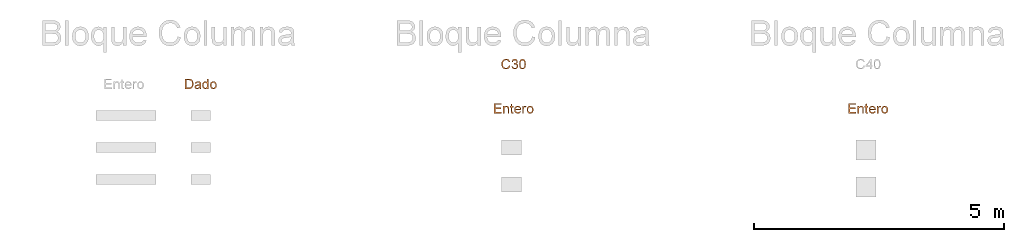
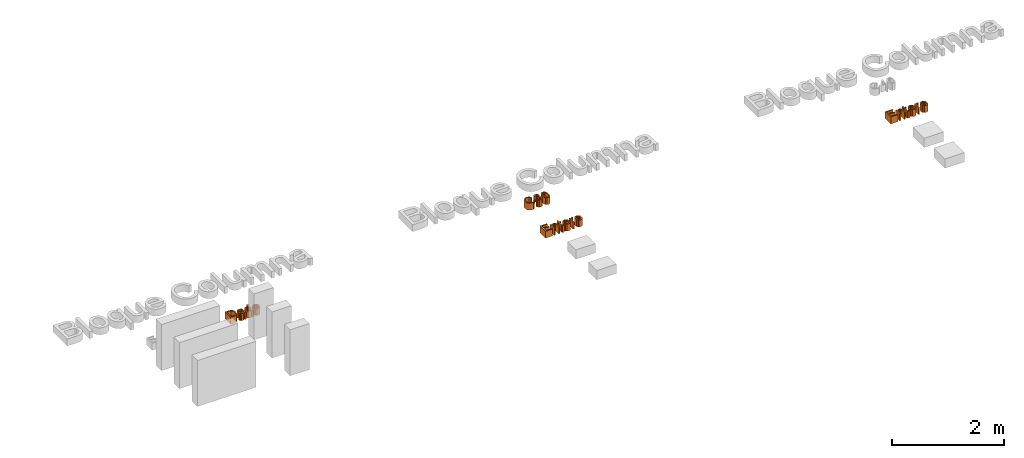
# One storey, part 7 of 8: 4 proxies.
"""IFC2X3 building model written with IfcOpenShell, lengths in metres."""

from ifc_helpers import new_model, entity, si_unit, converted_unit, derived_unit, direction, frame, origin, place, context, subcontext, project, spatial, polyline, outline, extrude, type_object, element, save


model = new_model("IFC2X3")

# Units and contexts
model_context = context("Model", 3, precision=1e-05, world=origin(), true_north=direction((6.12303176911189e-17, 1.0)))
body_context = subcontext(model_context, "Body", "Model", "MODEL_VIEW")
ifc_project = project(units=[si_unit("LENGTHUNIT", "METRE"), si_unit("AREAUNIT", "SQUARE_METRE"), si_unit("VOLUMEUNIT", "CUBIC_METRE"), converted_unit("PLANEANGLEUNIT", "DEGREE", entity("IfcRatioMeasure", 0.0174532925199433), si_unit("PLANEANGLEUNIT", "RADIAN"), dimensions=[0, 0, 0, 0, 0, 0, 0]), si_unit("MASSUNIT", "GRAM", prefix="KILO"), derived_unit("MASSDENSITYUNIT", [(si_unit("MASSUNIT", "GRAM", prefix="KILO"), 1), (si_unit("LENGTHUNIT", "METRE"), -3)]), derived_unit("MOMENTOFINERTIAUNIT", [(si_unit("LENGTHUNIT", "METRE"), 4)]), si_unit("TIMEUNIT", "SECOND"), si_unit("FREQUENCYUNIT", "HERTZ"), si_unit("THERMODYNAMICTEMPERATUREUNIT", "DEGREE_CELSIUS"), derived_unit("THERMALTRANSMITTANCEUNIT", [(si_unit("MASSUNIT", "GRAM", prefix="KILO"), 1), (si_unit("THERMODYNAMICTEMPERATUREUNIT", "KELVIN"), -1), (si_unit("TIMEUNIT", "SECOND"), -3)]), derived_unit("VOLUMETRICFLOWRATEUNIT", [(si_unit("LENGTHUNIT", "METRE"), 3), (si_unit("TIMEUNIT", "SECOND"), -1)]), si_unit("ELECTRICCURRENTUNIT", "AMPERE"), si_unit("ELECTRICVOLTAGEUNIT", "VOLT"), si_unit("POWERUNIT", "WATT"), si_unit("FORCEUNIT", "NEWTON", prefix="KILO"), si_unit("ILLUMINANCEUNIT", "LUX"), si_unit("LUMINOUSFLUXUNIT", "LUMEN"), si_unit("LUMINOUSINTENSITYUNIT", "CANDELA"), derived_unit("USERDEFINED", [(si_unit("MASSUNIT", "GRAM", prefix="KILO"), -1), (si_unit("LENGTHUNIT", "METRE"), -2), (si_unit("TIMEUNIT", "SECOND"), 3), (si_unit("LUMINOUSFLUXUNIT", "LUMEN"), 1)]), derived_unit("LINEARVELOCITYUNIT", [(si_unit("LENGTHUNIT", "METRE"), 1), (si_unit("TIMEUNIT", "SECOND"), -1)]), si_unit("PRESSUREUNIT", "PASCAL"), derived_unit("USERDEFINED", [(si_unit("LENGTHUNIT", "METRE"), -2), (si_unit("MASSUNIT", "GRAM", prefix="KILO"), 1), (si_unit("TIMEUNIT", "SECOND"), -2)]), derived_unit("LINEARFORCEUNIT", [(si_unit("MASSUNIT", "GRAM", prefix="KILO"), 1), (si_unit("LENGTHUNIT", "METRE"), 1), (si_unit("TIMEUNIT", "SECOND"), -2), (si_unit("LENGTHUNIT", "METRE"), -1)]), derived_unit("PLANARFORCEUNIT", [(si_unit("MASSUNIT", "GRAM", prefix="KILO"), 1), (si_unit("LENGTHUNIT", "METRE"), 1), (si_unit("TIMEUNIT", "SECOND"), -2), (si_unit("LENGTHUNIT", "METRE"), -2)])], contexts=[model_context])

# Site, building, storey
site_placement = place(None, origin())
site = spatial("IfcSite", under=ifc_project, at=site_placement, Name="Default", CompositionType="ELEMENT")
building_placement = place(site_placement, origin())
building = spatial("IfcBuilding", under=site, at=building_placement, CompositionType="ELEMENT")
storey_placement = place(building_placement, origin())
storey = spatial("IfcBuildingStorey", under=building, at=storey_placement, Name="Nivel 1", CompositionType="ELEMENT", Elevation=0.0)

# Proxies
building_element_proxy_type_1 = type_object("IfcBuildingElementProxyType", Name="Texto de modelo:Subtítulo", PredefinedType="NOTDEFINED")
proxy_1_placement = place(storey_placement, origin())
element("IfcBuildingElementProxy", 1, at=proxy_1_placement, inside=storey, type_object=building_element_proxy_type_1, Name="Texto de modelo:Subtítulo", ObjectType="Texto de modelo:Subtítulo", context=body_context, shape_type="SweptSolid", body=[
    extrude(outline(polyline([(-0.0800511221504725, -0.101502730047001), (0.0674940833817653, -0.101502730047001), (0.0674940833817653, -0.0763886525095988), (-0.054937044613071, -0.0763886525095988), (-0.054937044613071, -0.0104641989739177), (0.0580763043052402, -0.0104641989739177), (0.0580763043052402, 0.0146498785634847), (-0.054937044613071, 0.0146498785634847), (-0.054937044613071, 0.0742958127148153), (0.0643548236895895, 0.0742958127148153), (0.0643548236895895, 0.0994098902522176), (-0.0800511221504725, 0.0994098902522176), (-0.0800511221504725, -0.101502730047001)])), frame((13.7233392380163, -0.528869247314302, 0.0)), (0.0, 0.0, 1.0), 0.15),
    extrude(outline(polyline([(-0.0610913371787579, -0.102201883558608), (-0.0359772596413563, -0.102201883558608), (-0.0359772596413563, -0.0239165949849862), (-0.0331139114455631, -0.000776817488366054), (-0.0245238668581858, 0.013509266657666), (-0.0119852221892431, 0.0209036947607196), (0.00272392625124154, 0.0233685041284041), (0.0199653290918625, 0.0189784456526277), (0.030192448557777, 0.00723074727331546), (0.0330864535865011, -0.0149893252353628), (0.0330864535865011, -0.102201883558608), (0.0582005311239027, -0.102201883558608), (0.0582005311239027, -0.0116048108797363), (0.0568761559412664, 0.012675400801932), (0.0493468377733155, 0.0311430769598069), (0.0331600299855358, 0.0437001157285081), (0.00944390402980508, 0.0484825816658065), (-0.00454174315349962, 0.0469987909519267), (-0.0167738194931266, 0.0425474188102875), (-0.0272523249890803, 0.0351284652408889), (-0.0359772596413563, 0.0247419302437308), (-0.0359772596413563, 0.0453433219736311), (-0.0610913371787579, 0.0453433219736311), (-0.0610913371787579, -0.102201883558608)])), frame((13.8864565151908, -0.528170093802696, 0.0)), (0.0, 0.0, 1.0), 0.15),
    extrude(outline(polyline([(-0.0351329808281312, -0.0583737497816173), (-0.0402910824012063, -0.079664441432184), (-0.0218126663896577, -0.0838186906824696), (-0.000471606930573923, -0.0816406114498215), (0.0110045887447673, -0.0717345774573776), (0.0167042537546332, -0.0436466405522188), (0.0243888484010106, 0.0379564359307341), (0.0431414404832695, 0.0361904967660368), (0.0454960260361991, 0.0611939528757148), (0.0267434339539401, 0.062959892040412), (0.030105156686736, 0.0986581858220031), (0.00648593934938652, 0.115712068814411), (0.00173997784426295, 0.0653144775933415), (-0.0232634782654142, 0.067669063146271), (-0.0256180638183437, 0.042665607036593), (-0.000614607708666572, 0.0403110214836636), (-0.00823022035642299, -0.0405595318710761), (-0.0107628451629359, -0.0533277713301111), (-0.015465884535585, -0.0574914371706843), (-0.0241462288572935, -0.0583737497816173), (-0.0351329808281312, -0.0583737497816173)])), frame((14.0030509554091, -0.54801668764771, 0.0), z_axis=(0.0, 0.0, -1.0), x_axis=(-0.995595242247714, 0.0937556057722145, 0.0)), (0.0, 0.0, -1.0), 0.15),
    extrude(outline(polyline([(-0.00993794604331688, -0.0410894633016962), (-0.0216263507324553, -0.0629882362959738), (-0.00136076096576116, -0.0664886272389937), (0.0181427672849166, -0.0629678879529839), (0.0362596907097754, -0.0523738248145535), (0.0523654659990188, -0.0346542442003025), (0.065361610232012, -0.00774419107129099), (0.0663157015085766, 0.0193800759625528), (0.0551946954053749, 0.0449978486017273), (0.0319655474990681, 0.0673884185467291), (0.00225549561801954, 0.0824990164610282), (-0.0263080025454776, 0.0848576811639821), (-0.0517924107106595, 0.0755140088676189), (-0.0722651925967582, 0.0555175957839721), (-0.0838796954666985, 0.0303111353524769), (-0.083981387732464, 0.00365713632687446), (-0.0721795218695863, -0.0222407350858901), (-0.0480833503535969, -0.0451788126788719), (-0.042477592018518, -0.0489757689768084), (0.0228336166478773, 0.0430743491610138), (0.0356497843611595, 0.0286508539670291), (0.0410775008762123, 0.0124178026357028), (0.0395747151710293, -0.00438600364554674), (0.0315993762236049, -0.0205217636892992), (0.0130702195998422, -0.0375669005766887), (0.00222602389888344, -0.0410894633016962), (-0.00993794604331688, -0.0410894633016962)]), holes=[polyline([(0.0023513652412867, 0.057606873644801), (-0.0485124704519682, -0.0140810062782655), (-0.0573680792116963, -0.00363287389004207), (-0.0612558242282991, 0.00728999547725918), (-0.0599840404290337, 0.0243403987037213), (-0.0517261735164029, 0.0410650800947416), (-0.0400149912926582, 0.0535127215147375), (-0.0261693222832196, 0.0608523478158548), (-0.0115826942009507, 0.06243378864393), (0.0023513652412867, 0.057606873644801)])]), frame((14.1217096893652, -0.570750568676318, 0.0), z_axis=(0.0, 0.0, -1.0), x_axis=(-0.578660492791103, -0.815568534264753, 0.0)), (0.0, 0.0, -1.0), 0.15),
    extrude(outline(polyline([(-0.0370877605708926, -0.11143145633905), (-0.011973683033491, -0.11143145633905), (-0.011973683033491, -0.0338819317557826), (-0.00790245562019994, -0.00454947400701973), (0.00114744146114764, 0.00918478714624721), (0.0153476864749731, 0.0141389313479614), (0.0330060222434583, 0.00898858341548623), (0.0413937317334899, 0.031502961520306), (0.0286895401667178, 0.0373154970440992), (0.016181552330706, 0.0392530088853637), (0.000485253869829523, 0.0343969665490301), (-0.0151129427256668, 0.0142860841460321), (-0.0151129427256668, 0.0361137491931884), (-0.0370877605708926, 0.0361137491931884), (-0.0370877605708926, -0.11143145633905)])), frame((14.2485818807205, -0.518940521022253, 0.0)), (0.0, 0.0, 1.0), 0.15),
    extrude(outline(polyline([(-0.0116534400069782, -0.0669843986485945), (0.0215735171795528, -0.0669843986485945), (0.0474010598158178, -0.0567621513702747), (0.0650090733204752, -0.0379496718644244), (0.0735774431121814, -0.0121789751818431), (0.0737787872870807, 0.0056879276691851), (0.0693254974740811, 0.0227506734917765), (0.0604863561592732, 0.0378207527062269), (0.0475301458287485, 0.0497096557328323), (0.0292360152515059, 0.058406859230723), (0.00438311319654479, 0.0639018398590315), (-0.0272289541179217, 0.063628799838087), (-0.0525847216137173, 0.0531926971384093), (-0.0702507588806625, 0.0343634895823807), (-0.0787936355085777, 0.00891113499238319), (-0.0780541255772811, -0.0155295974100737), (-0.0686800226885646, -0.0371544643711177), (-0.0589084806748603, -0.0481042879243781), (-0.0461468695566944, -0.0567258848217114), (-0.0116534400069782, -0.0669843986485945)]), holes=[polyline([(-0.00825874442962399, -0.0421007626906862), (-0.030362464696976, -0.0361073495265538), (-0.045170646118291, -0.0252557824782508), (-0.0529373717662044, -0.0109345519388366), (-0.0539167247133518, 0.00546785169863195), (-0.0485294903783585, 0.0208219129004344), (-0.0371292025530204, 0.0324839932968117), (-0.0201048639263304, 0.0389852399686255), (0.00215452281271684, 0.0388567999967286), (0.024762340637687, 0.0327936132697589), (0.0398195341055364, 0.0219075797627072), (0.0476807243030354, 0.00759803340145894), (0.0487005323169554, -0.0087356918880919), (0.043290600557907, -0.0242537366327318), (0.0318894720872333, -0.0359218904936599), (0.0146540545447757, -0.0423382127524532), (-0.00825874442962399, -0.0421007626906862)])]), frame((14.3673429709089, -0.558958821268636, 0.0), z_axis=(0.0, 0.0, 1.0), x_axis=(0.137105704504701, -0.990556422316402, 0.0)), (0.0, 0.0, 1.0), 0.15),
])
building_element_proxy_type_2 = type_object("IfcBuildingElementProxyType", Name="Texto de modelo:Subtítulo", PredefinedType="NOTDEFINED")
proxy_2_placement = place(storey_placement, origin())
element("IfcBuildingElementProxy", 2, at=proxy_2_placement, inside=storey, type_object=building_element_proxy_type_2, Name="Texto de modelo:Subtítulo", ObjectType="Texto de modelo:Subtítulo", context=body_context, shape_type="SweptSolid", body=[
    extrude(outline(polyline([(-0.112205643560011, -0.108781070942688), (-0.0395612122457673, -0.108781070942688), (-0.007261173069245, -0.105347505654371), (0.0167492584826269, -0.0952675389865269), (0.0350943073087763, -0.0770451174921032), (0.0488285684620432, -0.0477862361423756), (0.0541751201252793, -0.00724564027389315), (0.0522008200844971, 0.0181382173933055), (0.0462779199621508, 0.0405299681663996), (0.0363818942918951, 0.0595617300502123), (0.0224882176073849, 0.0748656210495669), (0.00897468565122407, 0.0836580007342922), (-0.00704044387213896, 0.0892375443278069), (-0.0428966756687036, 0.092131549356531), (-0.112205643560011, 0.092131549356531), (-0.112205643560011, -0.108781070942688)]), holes=[polyline([(-0.0870915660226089, -0.0836669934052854), (-0.0870915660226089, 0.0670174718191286), (-0.0433381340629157, 0.0670174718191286), (-0.00772715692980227, 0.062995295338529), (0.0064669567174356, 0.0546075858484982), (0.0183434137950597, 0.0407261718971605), (0.0263816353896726, 0.0205171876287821), (0.029061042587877, -0.00685323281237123), (0.0276937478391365, -0.0275098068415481), (0.0235918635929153, -0.0448431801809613), (0.0170374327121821, -0.0589146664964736), (0.00831249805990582, -0.0697855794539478), (-0.010326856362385, -0.0800372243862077), (-0.0426514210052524, -0.0836669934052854), (-0.0870915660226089, -0.0836669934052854)])]), frame((0.46997993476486, -0.0314649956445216, 0.0)), (0.0, 0.0, 1.0), 0.15),
    extrude(outline(polyline([(0.0711345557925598, 0.0146039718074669), (0.0909889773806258, 0.0146039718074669), (0.0989307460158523, 0.0384292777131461), (0.077315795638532, 0.0403604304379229), (0.0355206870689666, 0.0529478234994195), (0.00587865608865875, 0.0628285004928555), (-0.0153562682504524, 0.0686142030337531), (-0.0339620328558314, 0.0666985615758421), (-0.0500317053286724, 0.0539327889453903), (-0.0638910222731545, 0.02647009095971), (-0.069575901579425, -0.0065611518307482), (-0.0677610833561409, -0.0204670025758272), (-0.0628595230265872, -0.0318600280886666), (-0.0430283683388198, -0.0499228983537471), (-0.0321084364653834, -0.0270903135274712), (-0.0404360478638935, -0.0190535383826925), (-0.0445407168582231, -0.0101752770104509), (-0.0446745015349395, 0.000882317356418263), (-0.04108945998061, 0.0154570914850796), (-0.0342567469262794, 0.0302160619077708), (-0.0254230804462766, 0.0394995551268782), (-0.0168259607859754, 0.0421015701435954), (-0.00564621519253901, 0.0401975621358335), (-0.000387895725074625, 0.0382896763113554), (-0.00597195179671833, -0.00576232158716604), (-0.00926034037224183, -0.0275711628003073), (-0.00700345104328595, -0.0468594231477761), (0.002683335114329, -0.0634021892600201), (0.0200094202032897, -0.0742445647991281), (0.0370349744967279, -0.076565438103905), (0.0529320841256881, -0.0718015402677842), (0.066308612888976, -0.0599412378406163), (0.075772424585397, -0.040972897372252), (0.0795804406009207, -0.0138824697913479), (0.0711345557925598, 0.0146039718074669)]), holes=[polyline([(0.0234839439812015, 0.0304875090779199), (0.0301848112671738, 0.0280987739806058), (0.0473557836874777, 0.0181870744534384), (0.055972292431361, -0.00195430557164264), (0.0564783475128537, -0.0146871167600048), (0.0536378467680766, -0.0279589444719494), (0.0483232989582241, -0.0395982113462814), (0.041531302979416, -0.04706106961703), (0.0339521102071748, -0.0504483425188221), (0.0262759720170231, -0.0498608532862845), (0.0181946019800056, -0.0435477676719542), (0.0150070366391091, -0.0321702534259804), (0.0179774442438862, -0.0103846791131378), (0.0234839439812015, 0.0304875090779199)])]), frame((0.613376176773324, -0.0585445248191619, 0.0), z_axis=(0.0, 0.0, 1.0), x_axis=(0.316227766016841, -0.948683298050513, 0.0)), (0.0, 0.0, 1.0), 0.15),
    extrude(outline(polyline([(0.0429290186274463, -0.0757009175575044), (0.0680430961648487, -0.0757009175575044), (0.0680430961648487, 0.125211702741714), (0.0429290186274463, 0.125211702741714), (0.0429290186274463, 0.0503599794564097), (0.0263988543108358, 0.0681409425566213), (0.0155340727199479, 0.0732728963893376), (0.003246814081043, 0.0749835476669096), (-0.0136205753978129, 0.0725923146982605), (-0.0288079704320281, 0.0654186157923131), (-0.0413650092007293, 0.0537567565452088), (-0.0503413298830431, 0.037901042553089), (-0.055730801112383, 0.0189305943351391), (-0.0575272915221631, -0.00207546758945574), (-0.055577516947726, -0.0233451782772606), (-0.0497281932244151, -0.0420274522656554), (-0.0403349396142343, -0.0574968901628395), (-0.027753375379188, -0.0691280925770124), (-0.0128909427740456, -0.0764121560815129), (0.0033449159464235, -0.0788401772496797), (0.0156229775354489, -0.0771632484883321), (0.0263130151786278, -0.0721324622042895), (0.0354150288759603, -0.0637478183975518), (0.0429290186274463, -0.052009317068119), (0.0429290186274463, -0.0757009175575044)]), holes=[polyline([(-0.0324132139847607, -0.00197736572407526), (-0.0297644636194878, 0.0213034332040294), (-0.0218182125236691, 0.0373860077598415), (-0.00991109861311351, 0.0467486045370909), (0.00462024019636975, 0.0498694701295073), (0.0195255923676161, 0.046619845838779), (0.0318680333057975, 0.036870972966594), (0.0401637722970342, 0.0201813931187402), (0.0429290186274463, -0.00389035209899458), (0.0402128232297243, -0.0259080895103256), (0.0320642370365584, -0.0414388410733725), (0.020028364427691, -0.0506542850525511), (0.00565030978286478, -0.0537260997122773), (-0.00873387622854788, -0.0505071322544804), (-0.0210824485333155, -0.0408502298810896), (-0.0295805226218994, -0.0246940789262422), (-0.0324132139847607, -0.00197736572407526)])]), frame((0.757480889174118, -0.0645451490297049, 0.0)), (0.0, 0.0, 1.0), 0.15),
    extrude(outline(polyline([(-0.0116534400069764, -0.0669843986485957), (0.0215735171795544, -0.0669843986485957), (0.0474010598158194, -0.0567621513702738), (0.065009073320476, -0.0379496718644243), (0.0735774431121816, -0.0121789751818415), (0.0737787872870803, 0.00568792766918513), (0.0693254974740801, 0.0227506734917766), (0.060486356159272, 0.0378207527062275), (0.0475301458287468, 0.0497096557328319), (0.029236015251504, 0.0584068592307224), (0.00438311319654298, 0.0639018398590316), (-0.0272289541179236, 0.0636287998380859), (-0.052584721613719, 0.0531926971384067), (-0.0702507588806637, 0.0343634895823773), (-0.0787936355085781, 0.0089111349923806), (-0.0780541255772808, -0.015529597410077), (-0.0686800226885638, -0.037154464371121), (-0.0589084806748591, -0.0481042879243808), (-0.0461468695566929, -0.0567258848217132), (-0.0116534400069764, -0.0669843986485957)]), holes=[polyline([(-0.00825874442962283, -0.0421007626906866), (-0.0303624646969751, -0.036107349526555), (-0.0451706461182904, -0.0252557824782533), (-0.0529373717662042, -0.010934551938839), (-0.053916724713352, 0.00546785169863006), (-0.0485294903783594, 0.020821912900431), (-0.0371292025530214, 0.03248399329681), (-0.0201048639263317, 0.0389852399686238), (0.00215452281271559, 0.0388567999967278), (0.0247623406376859, 0.0327936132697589), (0.0398195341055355, 0.0219075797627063), (0.0476807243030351, 0.00759803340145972), (0.0487005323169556, -0.00873569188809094), (0.0432906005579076, -0.0242537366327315), (0.0318894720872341, -0.0359218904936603), (0.0146540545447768, -0.0423382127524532), (-0.00825874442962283, -0.0421007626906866)])]), frame((0.924866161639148, -0.0688329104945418, 0.0), z_axis=(0.0, 0.0, 1.0), x_axis=(0.137105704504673, -0.990556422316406, 0.0)), (0.0, 0.0, 1.0), 0.15),
])
building_element_proxy_type_3 = type_object("IfcBuildingElementProxyType", Name="Texto de modelo:Subtítulo", PredefinedType="NOTDEFINED")
proxy_3_placement = place(storey_placement, origin())
element("IfcBuildingElementProxy", 3, at=proxy_3_placement, inside=storey, type_object=building_element_proxy_type_3, Name="Texto de modelo:Subtítulo", ObjectType="Texto de modelo:Subtítulo", context=body_context, shape_type="SweptSolid", body=[
    extrude(outline(polyline([(0.0035523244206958, -0.0754517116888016), (0.000735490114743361, -0.101233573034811), (0.0322073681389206, -0.10073341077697), (0.0586340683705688, -0.0912753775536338), (0.0793092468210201, -0.0735495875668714), (0.0935265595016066, -0.0482461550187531), (0.100733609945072, -0.0198295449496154), (0.0996500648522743, 0.00530853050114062), (0.0908072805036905, 0.0276031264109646), (0.074736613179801, 0.0474892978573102), (0.0532622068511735, 0.064035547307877), (0.0282082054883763, 0.0763103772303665), (-0.000248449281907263, 0.0838799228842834), (-0.0270668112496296, 0.0844731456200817), (-0.0513308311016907, 0.0782421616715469), (-0.0721244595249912, 0.0653390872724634), (-0.0887450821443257, 0.0469994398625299), (-0.100490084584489, 0.0244587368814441), (-0.106560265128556, -0.00268319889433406), (-0.103625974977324, -0.0281270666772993), (-0.0921127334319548, -0.0509518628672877), (-0.0724460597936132, -0.0702365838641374), (-0.0579739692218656, -0.0488570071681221), (-0.0720305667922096, -0.0342408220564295), (-0.0795803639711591, -0.0186741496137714), (-0.080995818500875, -0.00185900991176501), (-0.0766493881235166, 0.0165025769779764), (-0.0665154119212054, 0.0357323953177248), (-0.052717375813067, 0.0494622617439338), (-0.036196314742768, 0.0575953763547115), (-0.0178932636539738, 0.0600349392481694), (0.000999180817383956, 0.0580310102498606), (0.0192884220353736, 0.0528336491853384), (0.0403234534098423, 0.042863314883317), (0.0570828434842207, 0.0304574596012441), (0.0687737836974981, 0.0156861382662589), (0.0746034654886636, -0.0013805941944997), (0.0751312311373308, -0.0194006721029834), (0.070916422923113, -0.0370320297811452), (0.0605954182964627, -0.0555423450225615), (0.0456816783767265, -0.0685820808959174), (0.0265442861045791, -0.0754517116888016), (0.0035523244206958, -0.0754517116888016)])), frame((6.77382426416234, 0.358696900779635, 0.0), z_axis=(0.0, 0.0, -1.0), x_axis=(-0.353343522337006, -0.935493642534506, 0.0)), (0.0, 0.0, -1.0), 0.15),
    extrude(outline(polyline([(0.0308511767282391, -0.0857990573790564), (0.0543855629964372, -0.0857990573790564), (0.0754383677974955, -0.0773126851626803), (0.0920499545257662, -0.0613670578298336), (0.102260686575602, -0.0389892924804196), (0.104904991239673, -0.0118817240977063), (0.097314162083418, 0.0127655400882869), (0.0813962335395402, 0.0320777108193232), (0.0590592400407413, 0.0431799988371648), (0.0410857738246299, 0.0456110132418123), (0.0250120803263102, 0.0425376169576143), (0.0115030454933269, 0.0341591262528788), (0.00122355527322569, 0.0206748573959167), (-0.00260449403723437, 0.0341326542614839), (-0.0093716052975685, 0.0449371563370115), (-0.0186123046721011, 0.0528845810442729), (-0.0298611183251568, 0.0577711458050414), (-0.0429117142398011, 0.0594449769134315), (-0.0562331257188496, 0.0573913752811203), (-0.0689026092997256, 0.0515673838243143), (-0.0799974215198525, 0.0419300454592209), (-0.0888132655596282, 0.0293099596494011), (-0.0946458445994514, 0.0145377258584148), (-0.0970673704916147, -0.00753238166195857), (-0.0917108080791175, -0.0276643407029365), (-0.0789482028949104, -0.0448026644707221), (-0.0591516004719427, -0.0578918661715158), (-0.0494893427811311, -0.034499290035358), (-0.0615597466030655, -0.0265778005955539), (-0.0689448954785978, -0.0164050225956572), (-0.0717776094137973, -0.00446586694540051), (-0.0701907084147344, 0.00875475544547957), (-0.0648433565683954, 0.0209199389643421), (-0.0564465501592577, 0.0295035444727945), (-0.0461432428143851, 0.033814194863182), (-0.0350763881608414, 0.033160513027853), (-0.0233518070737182, 0.0266687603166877), (-0.0170361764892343, 0.0150979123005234), (-0.0153741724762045, 0.000694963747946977), (-0.0176104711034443, -0.0142930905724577), (-0.018956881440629, -0.0180946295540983), (0.0045264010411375, -0.0274257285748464), (0.00652907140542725, -0.00971636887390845), (0.0131793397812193, 0.00483825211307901), (0.0239817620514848, 0.0151023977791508), (0.0374253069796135, 0.0201549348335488), (0.0519989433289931, 0.0190747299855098), (0.0658215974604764, 0.0123515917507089), (0.0755929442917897, 0.000864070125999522), (0.0801355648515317, -0.0141626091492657), (0.0782720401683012, -0.031503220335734), (0.0724444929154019, -0.0451198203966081), (0.0636178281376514, -0.05436762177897), (0.0511647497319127, -0.0594943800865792), (0.0344579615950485, -0.060747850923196), (0.0308511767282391, -0.0857990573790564)])), frame((6.9679827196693, 0.363083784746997, 0.0), z_axis=(0.0, 0.0, 1.0), x_axis=(0.264175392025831, -0.964474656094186, 0.0)), (0.0, 0.0, 1.0), 0.15),
    extrude(outline(polyline([(-0.00189888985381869, -0.0664927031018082), (0.0472235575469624, -0.0664927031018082), (0.0666133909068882, -0.0621912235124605), (0.0825556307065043, -0.0550220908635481), (0.098846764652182, -0.0367698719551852), (0.106262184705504, -0.0112975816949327), (0.105591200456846, 0.00917819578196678), (0.0990519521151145, 0.0263964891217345), (0.0865641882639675, 0.0404764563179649), (0.0680476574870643, 0.0515372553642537), (0.04315281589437, 0.0595961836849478), (0.0115301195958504, 0.0646705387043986), (-0.0359005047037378, 0.0649410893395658), (-0.0666698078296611, 0.0562576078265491), (-0.0782574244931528, 0.0487289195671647), (-0.0872999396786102, 0.0380058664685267), (-0.0935420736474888, 0.0247156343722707), (-0.0967285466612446, 0.00948540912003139), (-0.0960646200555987, -0.010878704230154), (-0.0895765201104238, -0.0280547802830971), (-0.077145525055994, -0.0421474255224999), (-0.0586529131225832, -0.0532612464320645), (-0.0337026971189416, -0.0613813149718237), (-0.00189888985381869, -0.0664927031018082)]), holes=[polyline([(0.000610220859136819, -0.0415042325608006), (-0.0378727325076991, -0.0345071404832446), (-0.0612926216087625, -0.0229381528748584), (-0.0700337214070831, -0.00934656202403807), (-0.0717750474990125, 0.00663472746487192), (-0.0662900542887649, 0.0227636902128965), (-0.0535720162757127, 0.0346512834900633), (-0.0297808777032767, 0.0407949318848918), (0.00892341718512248, 0.0396920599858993), (0.0478616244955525, 0.0327469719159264), (0.069719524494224, 0.0216337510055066), (0.0792681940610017, 0.00744175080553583), (0.0812787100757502, -0.00873967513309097), (0.0760430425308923, -0.0241792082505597), (0.0638531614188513, -0.0361455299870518), (0.0402089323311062, -0.0426000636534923), (0.000610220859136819, -0.0415042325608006)])]), frame((7.11354587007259, 0.361016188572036, 0.0), z_axis=(0.0, 0.0, 1.0), x_axis=(0.101851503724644, -0.994799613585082, 0.0)), (0.0, 0.0, 1.0), 0.15),
])
building_element_proxy_type_4 = type_object("IfcBuildingElementProxyType", Name="Texto de modelo:Subtítulo", PredefinedType="NOTDEFINED")
proxy_4_placement = place(storey_placement, origin())
element("IfcBuildingElementProxy", 4, at=proxy_4_placement, inside=storey, type_object=building_element_proxy_type_4, Name="Texto de modelo:Subtítulo", ObjectType="Texto de modelo:Subtítulo", context=body_context, shape_type="SweptSolid", body=[
    extrude(outline(polyline([(-0.0800511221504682, -0.101502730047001), (0.0674940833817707, -0.101502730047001), (0.0674940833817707, -0.0763886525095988), (-0.0549370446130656, -0.0763886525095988), (-0.0549370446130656, -0.0104641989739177), (0.0580763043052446, -0.0104641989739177), (0.0580763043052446, 0.0146498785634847), (-0.0549370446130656, 0.0146498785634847), (-0.0549370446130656, 0.0742958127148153), (0.064354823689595, 0.0742958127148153), (0.064354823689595, 0.0994098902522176), (-0.0800511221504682, 0.0994098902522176), (-0.0800511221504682, -0.101502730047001)])), frame((6.62333923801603, -0.52886924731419, 0.0)), (0.0, 0.0, 1.0), 0.15),
    extrude(outline(polyline([(-0.0610913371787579, -0.102201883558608), (-0.0359772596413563, -0.102201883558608), (-0.0359772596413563, -0.0239165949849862), (-0.0331139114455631, -0.000776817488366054), (-0.0245238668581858, 0.013509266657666), (-0.0119852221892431, 0.0209036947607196), (0.00272392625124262, 0.0233685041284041), (0.0199653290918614, 0.0189784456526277), (0.030192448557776, 0.00723074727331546), (0.0330864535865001, -0.0149893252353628), (0.0330864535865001, -0.102201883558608), (0.0582005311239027, -0.102201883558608), (0.0582005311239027, -0.0116048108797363), (0.0568761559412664, 0.012675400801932), (0.0493468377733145, 0.0311430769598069), (0.0331600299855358, 0.0437001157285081), (0.00944390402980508, 0.0484825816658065), (-0.00454174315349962, 0.0469987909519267), (-0.0167738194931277, 0.0425474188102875), (-0.0272523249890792, 0.0351284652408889), (-0.0359772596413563, 0.0247419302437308), (-0.0359772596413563, 0.0453433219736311), (-0.0610913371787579, 0.0453433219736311), (-0.0610913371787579, -0.102201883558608)])), frame((6.78645651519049, -0.528170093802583, 0.0)), (0.0, 0.0, 1.0), 0.15),
    extrude(outline(polyline([(-0.035132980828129, -0.0583737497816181), (-0.0402910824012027, -0.079664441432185), (-0.021812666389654, -0.0838186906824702), (-0.000471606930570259, -0.0816406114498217), (0.0110045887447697, -0.0717345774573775), (0.0167042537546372, -0.0436466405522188), (0.0243888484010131, 0.0379564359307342), (0.043141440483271, 0.0361904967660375), (0.0454960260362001, 0.0611939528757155), (0.0267434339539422, 0.0629598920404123), (0.0301051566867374, 0.0986581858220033), (0.00648593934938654, 0.115712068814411), (0.0017399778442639, 0.0653144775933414), (-0.0232634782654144, 0.0676690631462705), (-0.0256180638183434, 0.0426656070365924), (-0.000614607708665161, 0.0403110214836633), (-0.00823022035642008, -0.0405595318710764), (-0.0107628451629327, -0.0533277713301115), (-0.0154658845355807, -0.0574914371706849), (-0.0241462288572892, -0.0583737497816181), (-0.035132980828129, -0.0583737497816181)])), frame((6.90305095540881, -0.548016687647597, 0.0), z_axis=(0.0, 0.0, -1.0), x_axis=(-0.995595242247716, 0.0937556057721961, 0.0)), (0.0, 0.0, -1.0), 0.15),
    extrude(outline(polyline([(-0.00993794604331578, -0.0410894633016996), (-0.0216263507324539, -0.0629882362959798), (-0.00136076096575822, -0.0664886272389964), (0.0181427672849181, -0.0629678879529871), (0.0362596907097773, -0.0523738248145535), (0.0523654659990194, -0.0346542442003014), (0.0653616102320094, -0.00774419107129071), (0.0663157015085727, 0.0193800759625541), (0.0551946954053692, 0.0449978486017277), (0.0319655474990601, 0.067388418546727), (0.00225549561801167, 0.0824990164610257), (-0.0263080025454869, 0.0848576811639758), (-0.051792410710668, 0.0755140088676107), (-0.0722651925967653, 0.0555175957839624), (-0.0838796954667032, 0.0303111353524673), (-0.0839813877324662, 0.00365713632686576), (-0.0721795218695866, -0.022240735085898), (-0.0480833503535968, -0.0451788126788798), (-0.0424775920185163, -0.0489757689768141), (0.0228336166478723, 0.0430743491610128), (0.0356497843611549, 0.0286508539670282), (0.0410775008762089, 0.0124178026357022), (0.0395747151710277, -0.00438600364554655), (0.0315993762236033, -0.0205217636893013), (0.0130702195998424, -0.0375669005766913), (0.00222602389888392, -0.0410894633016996), (-0.00993794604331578, -0.0410894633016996)]), holes=[polyline([(0.00235136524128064, 0.0576068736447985), (-0.0485124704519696, -0.0140810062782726), (-0.0573680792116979, -0.00363287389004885), (-0.0612558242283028, 0.00728999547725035), (-0.059984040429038, 0.0243403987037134), (-0.051726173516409, 0.0410650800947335), (-0.0400149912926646, 0.0535127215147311), (-0.0261693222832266, 0.0608523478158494), (-0.0115826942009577, 0.0624337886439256), (0.00235136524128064, 0.0576068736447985)])]), frame((7.0217096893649, -0.570750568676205, 0.0), z_axis=(0.0, 0.0, -1.0), x_axis=(-0.578660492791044, -0.815568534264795, 0.0)), (0.0, 0.0, -1.0), 0.15),
    extrude(outline(polyline([(-0.0370877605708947, -0.11143145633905), (-0.0119736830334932, -0.11143145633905), (-0.0119736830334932, -0.0338819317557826), (-0.00790245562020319, -0.00454947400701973), (0.00114744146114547, 0.00918478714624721), (0.0153476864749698, 0.0141389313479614), (0.0330060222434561, 0.00898858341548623), (0.0413937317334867, 0.031502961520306), (0.0286895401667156, 0.0373154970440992), (0.0161815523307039, 0.0392530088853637), (0.000485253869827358, 0.0343969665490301), (-0.0151129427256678, 0.0142860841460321), (-0.0151129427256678, 0.0361137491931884), (-0.0370877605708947, 0.0361137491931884), (-0.0370877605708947, -0.11143145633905)])), frame((7.14858188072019, -0.518940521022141, 0.0)), (0.0, 0.0, 1.0), 0.15),
    extrude(outline(polyline([(-0.011653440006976, -0.0669843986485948), (0.0215735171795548, -0.0669843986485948), (0.0474010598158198, -0.0567621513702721), (0.0650090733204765, -0.0379496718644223), (0.073577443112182, -0.0121789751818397), (0.0737787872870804, 0.00568792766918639), (0.0693254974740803, 0.0227506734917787), (0.060486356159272, 0.0378207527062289), (0.0475301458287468, 0.0497096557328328), (0.029236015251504, 0.0584068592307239), (0.00438311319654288, 0.0639018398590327), (-0.0272289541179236, 0.0636287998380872), (-0.0525847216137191, 0.0531926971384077), (-0.0702507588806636, 0.0343634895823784), (-0.0787936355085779, 0.00891113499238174), (-0.0780541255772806, -0.0155295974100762), (-0.0686800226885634, -0.0371544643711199), (-0.0589084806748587, -0.04810428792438), (-0.0461468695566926, -0.0567258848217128), (-0.011653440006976, -0.0669843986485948)]), holes=[polyline([(-0.00825874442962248, -0.0421007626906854), (-0.0303624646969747, -0.0361073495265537), (-0.0451706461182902, -0.0252557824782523), (-0.052937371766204, -0.0109345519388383), (-0.0539167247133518, 0.0054678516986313), (-0.0485294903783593, 0.0208219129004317), (-0.0371292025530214, 0.0324839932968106), (-0.0201048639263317, 0.0389852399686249), (0.00215452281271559, 0.0388567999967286), (0.024762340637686, 0.0327936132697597), (0.0398195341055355, 0.0219075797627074), (0.0476807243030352, 0.00759803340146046), (0.0487005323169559, -0.00873569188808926), (0.0432906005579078, -0.0242537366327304), (0.0318894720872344, -0.0359218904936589), (0.0146540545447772, -0.0423382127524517), (-0.00825874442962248, -0.0421007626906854)])]), frame((7.26734297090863, -0.558958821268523, 0.0), z_axis=(0.0, 0.0, 1.0), x_axis=(0.137105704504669, -0.990556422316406, 0.0)), (0.0, 0.0, 1.0), 0.15),
])

save(model, "model.ifc")
